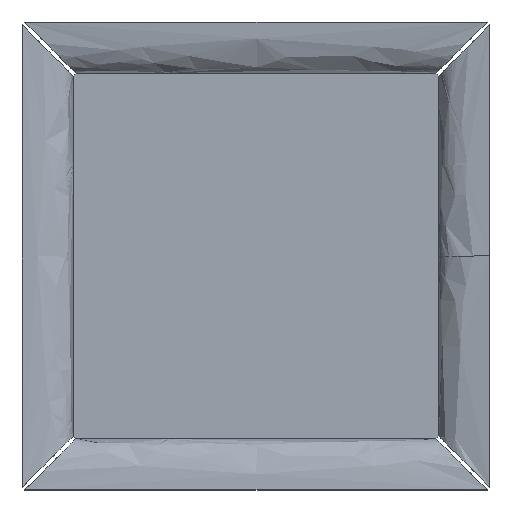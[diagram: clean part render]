
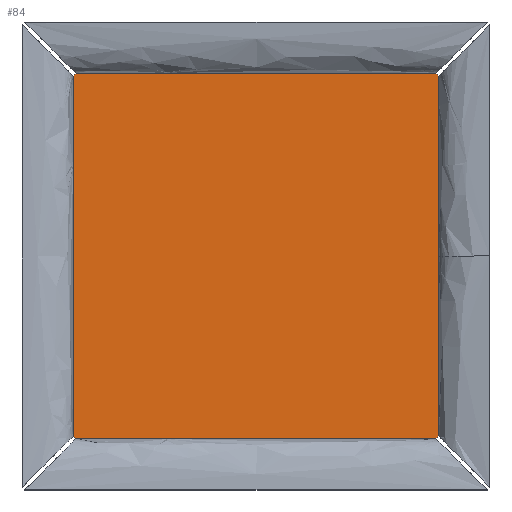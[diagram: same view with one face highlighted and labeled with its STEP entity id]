
A CAD part, top view. The second image highlights one B-rep face of the part: STEP entity #84.
In plain terms, the highlighted planar face has unit normal (0, 0, 1).
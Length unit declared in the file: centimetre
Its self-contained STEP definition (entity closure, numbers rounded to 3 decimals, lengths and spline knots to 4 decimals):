
#84=ADVANCED_FACE($,(#152),#801,.T.);
#152=FACE_OUTER_BOUND($,#220,.T.);
#220=EDGE_LOOP($,(#500,#501,#502,#503,#504,#505,#506,#507));
#500=ORIENTED_EDGE($,*,*,#668,.T.);
#501=ORIENTED_EDGE($,*,*,#682,.T.);
#502=ORIENTED_EDGE($,*,*,#681,.T.);
#503=ORIENTED_EDGE($,*,*,#680,.T.);
#504=ORIENTED_EDGE($,*,*,#679,.T.);
#505=ORIENTED_EDGE($,*,*,#678,.T.);
#506=ORIENTED_EDGE($,*,*,#677,.T.);
#507=ORIENTED_EDGE($,*,*,#676,.T.);
#668=EDGE_CURVE($,#771,#785,#986,.T.);
#676=EDGE_CURVE($,#779,#771,#994,.T.);
#677=EDGE_CURVE($,#780,#779,#995,.T.);
#678=EDGE_CURVE($,#781,#780,#996,.T.);
#679=EDGE_CURVE($,#782,#781,#997,.T.);
#680=EDGE_CURVE($,#783,#782,#998,.T.);
#681=EDGE_CURVE($,#784,#783,#999,.T.);
#682=EDGE_CURVE($,#785,#784,#1000,.T.);
#771=VERTEX_POINT($,#3692);
#779=VERTEX_POINT($,#3700);
#780=VERTEX_POINT($,#3701);
#781=VERTEX_POINT($,#3702);
#782=VERTEX_POINT($,#3703);
#783=VERTEX_POINT($,#3704);
#784=VERTEX_POINT($,#3705);
#785=VERTEX_POINT($,#3706);
#801=PLANE($,#1111);
#986=B_SPLINE_CURVE_WITH_KNOTS($,1,(#3637,#3638),.UNSPECIFIED.,.F.,.F.,(2,
2),(652.1542,653.3562),.UNSPECIFIED.);
#994=B_SPLINE_CURVE_WITH_KNOTS($,1,(#3653,#3654),.UNSPECIFIED.,.F.,.F.,(2,
2),(978.8625,1086.1625),.UNSPECIFIED.);
#995=B_SPLINE_CURVE_WITH_KNOTS($,1,(#3655,#3656),.UNSPECIFIED.,.F.,.F.,(2,
2),(977.6604,978.8625),.UNSPECIFIED.);
#996=B_SPLINE_CURVE_WITH_KNOTS($,1,(#3657,#3658),.UNSPECIFIED.,.F.,.F.,(2,
2),(870.3604,977.6604),.UNSPECIFIED.);
#997=B_SPLINE_CURVE_WITH_KNOTS($,1,(#3659,#3660),.UNSPECIFIED.,.F.,.F.,(2,
2),(869.1583,870.3604),.UNSPECIFIED.);
#998=B_SPLINE_CURVE_WITH_KNOTS($,1,(#3661,#3662),.UNSPECIFIED.,.F.,.F.,(2,
2),(761.8583,869.1583),.UNSPECIFIED.);
#999=B_SPLINE_CURVE_WITH_KNOTS($,1,(#3663,#3664),.UNSPECIFIED.,.F.,.F.,(2,
2),(760.6562,761.8583),.UNSPECIFIED.);
#1000=B_SPLINE_CURVE_WITH_KNOTS($,1,(#3665,#3666),.UNSPECIFIED.,.F.,.F.,
(2,2),(653.3562,760.6562),.UNSPECIFIED.);
#1111=AXIS2_PLACEMENT_3D($,#3683,#1137,$);
#1137=DIRECTION($,(0.,0.,1.));
#3637=CARTESIAN_POINT($,(109.,108.15,3.6));
#3638=CARTESIAN_POINT($,(108.15,109.,3.6));
#3653=CARTESIAN_POINT($,(109.,0.85,3.6));
#3654=CARTESIAN_POINT($,(109.,108.15,3.6));
#3655=CARTESIAN_POINT($,(108.15,0.,3.6));
#3656=CARTESIAN_POINT($,(109.,0.85,3.6));
#3657=CARTESIAN_POINT($,(0.85,0.,3.6));
#3658=CARTESIAN_POINT($,(108.15,0.,3.6));
#3659=CARTESIAN_POINT($,(0.,0.85,3.6));
#3660=CARTESIAN_POINT($,(0.85,0.,3.6));
#3661=CARTESIAN_POINT($,(0.,108.15,3.6));
#3662=CARTESIAN_POINT($,(0.,0.85,3.6));
#3663=CARTESIAN_POINT($,(0.85,109.,3.6));
#3664=CARTESIAN_POINT($,(0.,108.15,3.6));
#3665=CARTESIAN_POINT($,(108.15,109.,3.6));
#3666=CARTESIAN_POINT($,(0.85,109.,3.6));
#3683=CARTESIAN_POINT($,(0.,0.,3.6));
#3692=CARTESIAN_POINT($,(109.,108.15,3.6));
#3700=CARTESIAN_POINT($,(109.,0.85,3.6));
#3701=CARTESIAN_POINT($,(108.15,0.,3.6));
#3702=CARTESIAN_POINT($,(0.85,0.,3.6));
#3703=CARTESIAN_POINT($,(0.,0.85,3.6));
#3704=CARTESIAN_POINT($,(0.,108.15,3.6));
#3705=CARTESIAN_POINT($,(0.85,109.,3.6));
#3706=CARTESIAN_POINT($,(108.15,109.,3.6));
